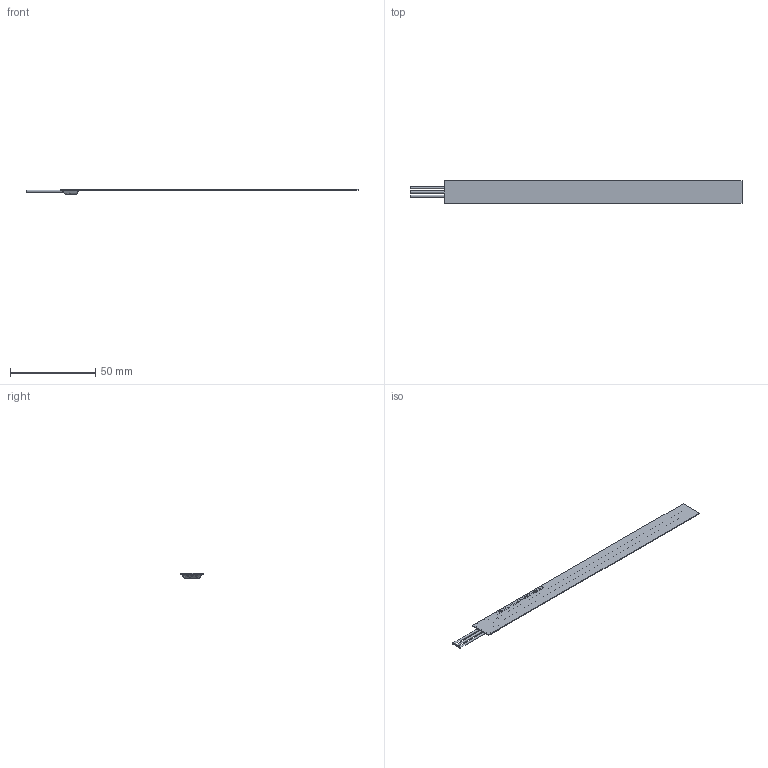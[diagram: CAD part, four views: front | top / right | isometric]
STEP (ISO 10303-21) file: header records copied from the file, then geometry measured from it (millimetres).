
FILE_DESCRIPTION(/* description */ ('UFPMA150A472XWB'),/* implementation_level */ '2;1');
FILE_NAME(/* name */ 'UFPMA150A472XWB',/* time_stamp */ '2017-12-07T12:03:27+01:00',/* author */ ('VISHAY'),/* organization */ ('VISHAY'),/* preprocessor_version */ 'ST-DEVELOPER v16.7',/* originating_system */ 'DEX',/* authorisation */ $);
FILE_SCHEMA (('AUTOMOTIVE_DESIGN {1 0 10303 214 3 1 1}'));
Length unit declared in the file: millimetre
Products named in the file (4): UFPMAxxxA472XWB; UFPMA150_Body; Wires; Potting
Assembly tree (3 placements, depth 2):
  UFPMAxxxA472XWB
    UFPMA150_Body
    Wires
    Potting
Bounding box: 195 x 13.5 x 3.02 mm (x, y, z)
Volume: 1372.6 mm3; surface area: 5542 mm2
Topology: 5 solids, 5 shells, 247 faces, 609 edges, 406 vertices
Faces by surface type: plane 196, bspline 44, cylinder 7
Full cylindrical faces by diameter (mm): 0.8 x3, 1.2 x3
Entity records: 8947 total; most frequent: CARTESIAN_POINT 3276, ORIENTED_EDGE 1202, DIRECTION 945, EDGE_CURVE 601, LINE 503, VECTOR 503, VERTEX_POINT 406, EDGE_LOOP 289
